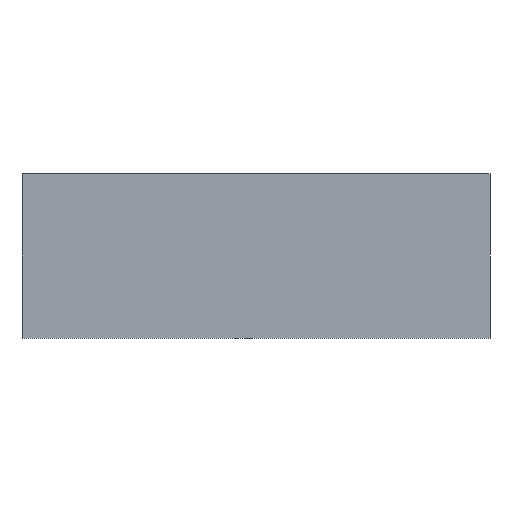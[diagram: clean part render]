
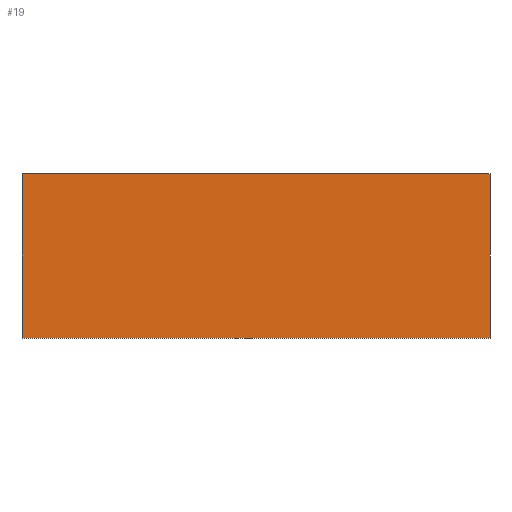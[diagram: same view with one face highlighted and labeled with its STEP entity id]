
A CAD part, front view. The second image highlights one B-rep face of the part: STEP entity #19.
In plain terms, the highlighted planar face has unit normal (0, -1, 0).
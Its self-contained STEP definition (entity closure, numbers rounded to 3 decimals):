
#19=ADVANCED_FACE('',(#45),#349,.T.);
#45=FACE_OUTER_BOUND('',#72,.T.);
#72=EDGE_LOOP('',(#116,#117,#118,#119));
#116=ORIENTED_EDGE('',*,*,#229,.T.);
#117=ORIENTED_EDGE('',*,*,#237,.T.);
#118=ORIENTED_EDGE('',*,*,#233,.F.);
#119=ORIENTED_EDGE('',*,*,#238,.F.);
#229=EDGE_CURVE('',#295,#296,#366,.T.);
#233=EDGE_CURVE('',#299,#300,#370,.T.);
#237=EDGE_CURVE('',#296,#300,#374,.T.);
#238=EDGE_CURVE('',#295,#299,#375,.T.);
#295=VERTEX_POINT('',#649);
#296=VERTEX_POINT('',#650);
#299=VERTEX_POINT('',#653);
#300=VERTEX_POINT('',#654);
#349=PLANE('',#483);
#366=B_SPLINE_CURVE_WITH_KNOTS('',1,(#693,#694),.UNSPECIFIED.,.F.,.F.,(2,
2),(0.,91.345),.UNSPECIFIED.);
#370=B_SPLINE_CURVE_WITH_KNOTS('',1,(#701,#702),.UNSPECIFIED.,.F.,.F.,(2,
2),(617.665,709.01),.UNSPECIFIED.);
#374=B_SPLINE_CURVE_WITH_KNOTS('',1,(#709,#710),.UNSPECIFIED.,.F.,.F.,(2,
2),(0.,32.099),.UNSPECIFIED.);
#375=B_SPLINE_CURVE_WITH_KNOTS('',1,(#711,#712),.UNSPECIFIED.,.F.,.F.,(2,
2),(0.,32.099),.UNSPECIFIED.);
#483=AXIS2_PLACEMENT_3D('',#567,#505,$);
#505=DIRECTION('',(0.,-1.,0.));
#567=CARTESIAN_POINT('',(-129.533,-30.197,-30.103));
#649=CARTESIAN_POINT('',(-129.533,-30.197,-30.103));
#650=CARTESIAN_POINT('',(-38.188,-30.197,-30.103));
#653=CARTESIAN_POINT('',(-129.533,-30.197,1.997));
#654=CARTESIAN_POINT('',(-38.188,-30.197,1.997));
#693=CARTESIAN_POINT('',(-129.533,-30.197,-30.103));
#694=CARTESIAN_POINT('',(-38.188,-30.197,-30.103));
#701=CARTESIAN_POINT('',(-129.533,-30.197,1.997));
#702=CARTESIAN_POINT('',(-38.188,-30.197,1.997));
#709=CARTESIAN_POINT('',(-38.188,-30.197,-30.103));
#710=CARTESIAN_POINT('',(-38.188,-30.197,1.997));
#711=CARTESIAN_POINT('',(-129.533,-30.197,-30.103));
#712=CARTESIAN_POINT('',(-129.533,-30.197,1.997));
